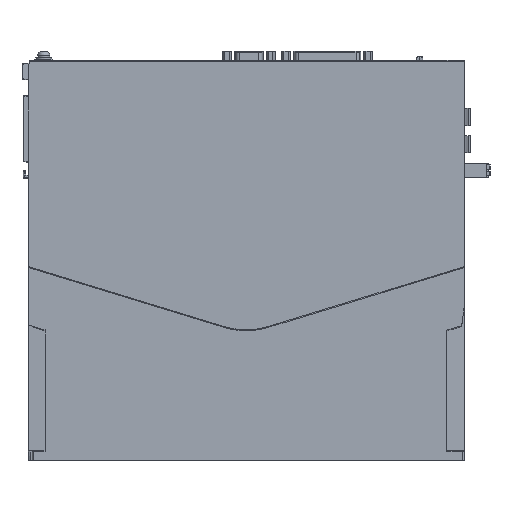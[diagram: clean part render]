
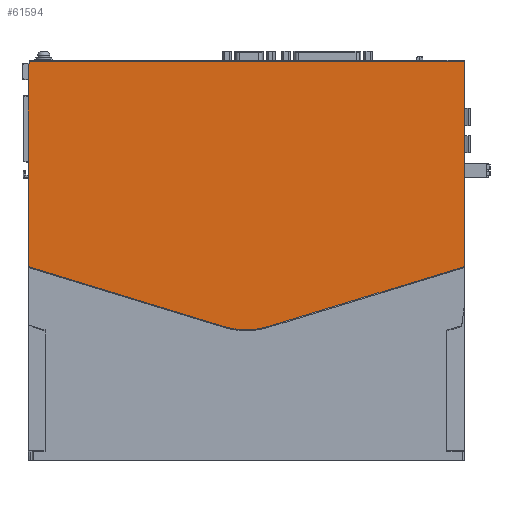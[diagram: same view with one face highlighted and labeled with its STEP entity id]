
A CAD part, left-side view. The second image highlights one B-rep face of the part: STEP entity #61594.
In plain terms, the highlighted planar face has unit normal (-1, 0, 0).
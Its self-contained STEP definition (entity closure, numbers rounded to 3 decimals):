
#14757=DIRECTION('',(0.,-0.035,0.999));
#14758=VECTOR('',#14757,10.406);
#14759=CARTESIAN_POINT('',(-44.5,125.,213.1));
#14760=LINE('',#14759,#14758);
#14761=DIRECTION('',(0.,0.,-1.));
#14762=VECTOR('',#14761,117.538);
#14763=CARTESIAN_POINT('',(-44.5,-125.,223.5));
#14764=LINE('',#14763,#14762);
#14765=DIRECTION('',(0.,0.956,-0.292));
#14766=VECTOR('',#14765,117.871);
#14767=CARTESIAN_POINT('',(-44.5,-125.,105.962));
#14768=LINE('',#14767,#14766);
#14769=CARTESIAN_POINT('',(-44.5,0.,111.665));
#14770=DIRECTION('',(1.,0.,0.));
#14771=DIRECTION('',(0.,-0.292,-0.956));
#14772=AXIS2_PLACEMENT_3D('',#14769,#14770,#14771);
#14774=CARTESIAN_POINT('',(-44.5,0.,
111.665));
#14775=DIRECTION('',(1.,0.,0.));
#14776=DIRECTION('',(0.,0.,-1.));
#14777=AXIS2_PLACEMENT_3D('',#14774,#14775,#14776);
#14779=DIRECTION('',(0.,0.956,0.292));
#14780=VECTOR('',#14779,117.871);
#14781=CARTESIAN_POINT('',(-44.5,12.28,
71.5));
#14782=LINE('',#14781,#14780);
#14783=DIRECTION('',(0.,0.,1.));
#14784=VECTOR('',#14783,107.138);
#14785=CARTESIAN_POINT('',(-44.5,125.,105.962));
#14786=LINE('',#14785,#14784);
#22323=DIRECTION('',(0.,1.,0.));
#22324=VECTOR('',#22323,249.637);
#22325=CARTESIAN_POINT('',(-44.5,-125.,223.5));
#22326=LINE('',#22325,#22324);
#35239=CARTESIAN_POINT('',(-44.5,124.637,
223.5));
#35240=VERTEX_POINT('',#35239);
#35241=CARTESIAN_POINT('',(-44.5,125.,213.1));
#35242=VERTEX_POINT('',#35241);
#35286=CARTESIAN_POINT('',(-44.5,-125.,223.5));
#35287=VERTEX_POINT('',#35286);
#35312=CARTESIAN_POINT('',(-44.5,-125.,105.962));
#35313=VERTEX_POINT('',#35312);
#35836=CARTESIAN_POINT('',(-44.5,125.,105.962));
#35837=VERTEX_POINT('',#35836);
#35938=CARTESIAN_POINT('',(-44.5,12.28,
71.5));
#35939=VERTEX_POINT('',#35938);
#35940=CARTESIAN_POINT('',(-44.5,-12.28,
71.5));
#35941=VERTEX_POINT('',#35940);
#35942=CARTESIAN_POINT('',(-44.5,0.,
69.665));
#35943=VERTEX_POINT('',#35942);
#61577=CARTESIAN_POINT('',(-44.5,0.,146.582));
#61578=DIRECTION('',(1.,0.,0.));
#61579=DIRECTION('',(0.,-1.,0.));
#61580=AXIS2_PLACEMENT_3D('',#61577,#61578,#61579);
#61581=PLANE('',#61580);
#61583=ORIENTED_EDGE('',*,*,#61582,.T.);
#61585=ORIENTED_EDGE('',*,*,#61584,.F.);
#61586=ORIENTED_EDGE('',*,*,#60268,.T.);
#61587=ORIENTED_EDGE('',*,*,#61562,.T.);
#61588=ORIENTED_EDGE('',*,*,#61545,.T.);
#61589=ORIENTED_EDGE('',*,*,#61543,.T.);
#61590=ORIENTED_EDGE('',*,*,#61521,.T.);
#61591=ORIENTED_EDGE('',*,*,#60890,.T.);
#61592=EDGE_LOOP('',(#61583,#61585,#61586,#61587,#61588,#61589,#61590,#61591));
#61593=FACE_OUTER_BOUND('',#61592,.F.);
#14773=CIRCLE('',#14772,42.);
#14778=CIRCLE('',#14777,42.);
#60268=EDGE_CURVE('',#35287,#35313,#14764,.T.);
#60890=EDGE_CURVE('',#35837,#35242,#14786,.T.);
#61521=EDGE_CURVE('',#35939,#35837,#14782,.T.);
#61543=EDGE_CURVE('',#35943,#35939,#14778,.T.);
#61545=EDGE_CURVE('',#35941,#35943,#14773,.T.);
#61562=EDGE_CURVE('',#35313,#35941,#14768,.T.);
#61582=EDGE_CURVE('',#35242,#35240,#14760,.T.);
#61584=EDGE_CURVE('',#35287,#35240,#22326,.T.);
#61594=ADVANCED_FACE('',(#61593),#61581,.F.);
